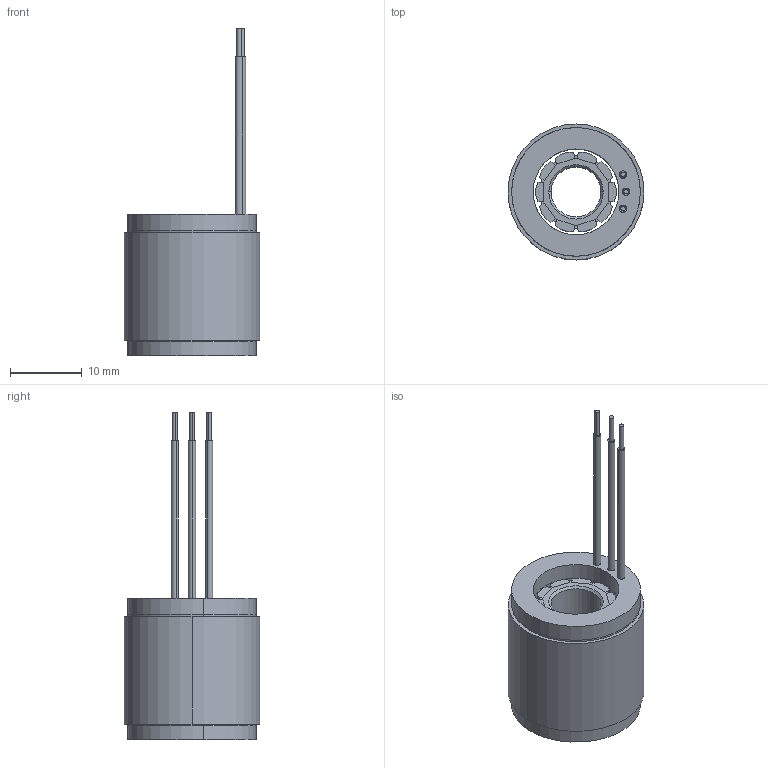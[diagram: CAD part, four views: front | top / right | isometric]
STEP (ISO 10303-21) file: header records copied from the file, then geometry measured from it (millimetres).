
FILE_DESCRIPTION (( 'STEP AP203' ), '1' );
FILE_NAME ('1919萇儂.STEP', '2025-03-20T07:35:04', ( '' ), ( '' ), 'SwSTEP 2.0', 'SolidWorks 2023', '' );
FILE_SCHEMA (( 'CONFIG_CONTROL_DESIGN' ));
Length unit declared in the file: millimetre
Products named in the file (9): 1919胶; 1919线圈; 1919内绕铁心涂覆; 1919轴; 1919定子; AWG26线黑; 1919转子; 1919磁铁0; 1919电机
Assembly tree (30 placements, depth 3):
  1919电机
    1919定子
      1919内绕铁心涂覆
      1919线圈  x12
      1919胶
    1919转子
      1919轴
      1919磁铁0  x10
    AWG26线黑  x3
Bounding box: 19 x 19 x 45.8 mm (x, y, z)
Volume: 6440.4 mm3; surface area: 10730.3 mm2
Topology: 28 solids, 28 shells, 467 faces, 1205 edges, 802 vertices
Faces by surface type: plane 292, cylinder 171, cone 4
Entity records: 7850 total; most frequent: DIRECTION 1121, CARTESIAN_POINT 1117, ORIENTED_EDGE 1066, EDGE_CURVE 533, VECTOR 405, LINE 405, AXIS2_PLACEMENT_3D 358, VERTEX_POINT 354
